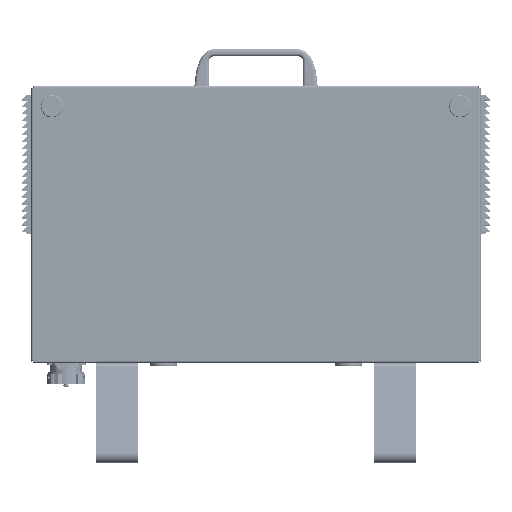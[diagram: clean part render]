
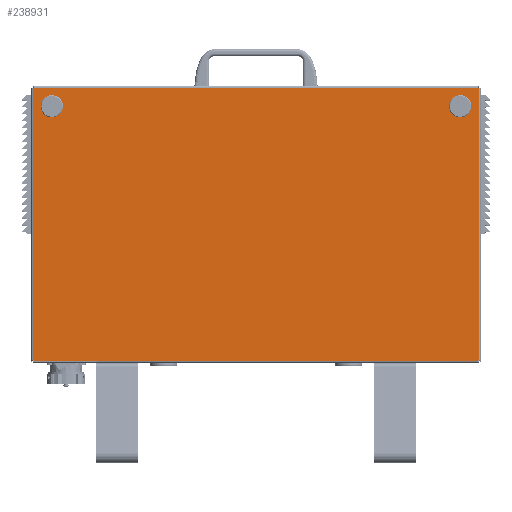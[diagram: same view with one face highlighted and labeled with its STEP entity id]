
A CAD part, top view. The second image highlights one B-rep face of the part: STEP entity #238931.
In plain terms, the highlighted planar face has unit normal (0, 0, 1) as drawn and (0, -1, 0) by its records, which use the part's own axes.
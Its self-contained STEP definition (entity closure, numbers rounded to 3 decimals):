
#2029 = CARTESIAN_POINT ( 'NONE',  ( 239.837, -1.2, 147.5 ) ) ;
#4559 = CARTESIAN_POINT ( 'NONE',  ( -220.5, -1.2, -127.5 ) ) ;
#25336 = CIRCLE ( 'NONE', #657215, 4. ) ;
#43606 = CIRCLE ( 'NONE', #1359634, 4. ) ;
#55134 = CARTESIAN_POINT ( 'NONE',  ( -240.793, -1.2, 147.793 ) ) ;
#63280 = ORIENTED_EDGE ( 'NONE', *, *, #1192630, .F. ) ;
#127245 = VERTEX_POINT ( 'NONE', #158591 ) ;
#158591 = CARTESIAN_POINT ( 'NONE',  ( 220.5, -1.2, -131.5 ) ) ;
#160550 = AXIS2_PLACEMENT_3D ( 'NONE', #539229, #1267619, #1528877 ) ;
#170992 = EDGE_CURVE ( 'NONE', #430628, #351125, #1519705, .T. ) ;
#174819 = CARTESIAN_POINT ( 'NONE',  ( 220.5, -1.2, -127.5 ) ) ;
#176260 = EDGE_CURVE ( 'NONE', #1450821, #417910, #884473, .T. ) ;
#203164 = CARTESIAN_POINT ( 'NONE',  ( -239.837, -1.2, -147.5 ) ) ;
#214237 = AXIS2_PLACEMENT_3D ( 'NONE', #1350197, #1009299, #1492513 ) ;
#214901 = DIRECTION ( 'NONE',  ( 0., 0., 1. ) ) ;
#238931 = ADVANCED_FACE ( 'NONE', ( #1128204, #867194, #526253 ), #436525, .F. ) ;
#292542 = DIRECTION ( 'NONE',  ( -1., 0., 0. ) ) ;
#292641 = DIRECTION ( 'NONE',  ( 0., -1., 0. ) ) ;
#316008 = ORIENTED_EDGE ( 'NONE', *, *, #482730, .F. ) ;
#351125 = VERTEX_POINT ( 'NONE', #929788 ) ;
#377591 = DIRECTION ( 'NONE',  ( 0., -1., 0. ) ) ;
#381940 = VERTEX_POINT ( 'NONE', #1487254 ) ;
#385657 = EDGE_LOOP ( 'NONE', ( #488644, #1562741 ) ) ;
#413430 = CIRCLE ( 'NONE', #615790, 4. ) ;
#417910 = VERTEX_POINT ( 'NONE', #998683 ) ;
#430628 = VERTEX_POINT ( 'NONE', #598486 ) ;
#436525 = PLANE ( 'NONE',  #214237 ) ;
#456701 = CARTESIAN_POINT ( 'NONE',  ( -240.5, -1.2, 147.5 ) ) ;
#469134 = ORIENTED_EDGE ( 'NONE', *, *, #176260, .F. ) ;
#478007 = VECTOR ( 'NONE', #292542, 1000. ) ;
#482730 = EDGE_CURVE ( 'NONE', #999177, #1457818, #1250531, .T. ) ;
#485379 = LINE ( 'NONE', #960624, #910272 ) ;
#487690 = DIRECTION ( 'NONE',  ( 0., 0., -1. ) ) ;
#488644 = ORIENTED_EDGE ( 'NONE', *, *, #1503676, .F. ) ;
#493126 = DIRECTION ( 'NONE',  ( 0., 0., -1. ) ) ;
#514418 = CARTESIAN_POINT ( 'NONE',  ( 220.5, -1.2, -127.5 ) ) ;
#515463 = CARTESIAN_POINT ( 'NONE',  ( 240.793, -1.2, -147.793 ) ) ;
#521091 = EDGE_CURVE ( 'NONE', #767737, #999177, #616073, .T. ) ;
#522198 = DIRECTION ( 'NONE',  ( 0., -1., 0. ) ) ;
#522690 = DIRECTION ( 'NONE',  ( 0., 0., -1. ) ) ;
#526253 = FACE_OUTER_BOUND ( 'NONE', #676528, .T. ) ;
#539229 = CARTESIAN_POINT ( 'NONE',  ( -240.793, -1.2, -147.793 ) ) ;
#567729 = AXIS2_PLACEMENT_3D ( 'NONE', #55134, #292641, #522690 ) ;
#573686 = EDGE_CURVE ( 'NONE', #381940, #710987, #43606, .T. ) ;
#596283 = AXIS2_PLACEMENT_3D ( 'NONE', #514418, #648636, #1020860 ) ;
#598486 = CARTESIAN_POINT ( 'NONE',  ( 240.5, -1.2, -146.837 ) ) ;
#615790 = AXIS2_PLACEMENT_3D ( 'NONE', #174819, #1355347, #634574 ) ;
#616073 = LINE ( 'NONE', #1471387, #1378283 ) ;
#634574 = DIRECTION ( 'NONE',  ( 0., 0., -1. ) ) ;
#648636 = DIRECTION ( 'NONE',  ( 0., -1., 0. ) ) ;
#657215 = AXIS2_PLACEMENT_3D ( 'NONE', #4559, #1327272, #487690 ) ;
#676528 = EDGE_LOOP ( 'NONE', ( #63280, #469134, #1505236, #316008, #1288434, #1427454, #1426520, #900676 ) ) ;
#710987 = VERTEX_POINT ( 'NONE', #863618 ) ;
#739890 = EDGE_CURVE ( 'NONE', #1242658, #127245, #413430, .T. ) ;
#759752 = DIRECTION ( 'NONE',  ( 0., 0., -1. ) ) ;
#767737 = VERTEX_POINT ( 'NONE', #1500045 ) ;
#798645 = CIRCLE ( 'NONE', #596283, 4. ) ;
#805349 = LINE ( 'NONE', #456701, #1291532 ) ;
#815090 = EDGE_CURVE ( 'NONE', #934633, #767737, #1324033, .T. ) ;
#836715 = AXIS2_PLACEMENT_3D ( 'NONE', #515463, #1101915, #1220635 ) ;
#852856 = EDGE_CURVE ( 'NONE', #710987, #381940, #25336, .T. ) ;
#863618 = CARTESIAN_POINT ( 'NONE',  ( -220.5, -1.2, -131.5 ) ) ;
#867194 = FACE_BOUND ( 'NONE', #1339884, .T. ) ;
#870926 = CARTESIAN_POINT ( 'NONE',  ( 240.793, -1.2, 147.793 ) ) ;
#884473 = CIRCLE ( 'NONE', #986139, 1. ) ;
#900676 = ORIENTED_EDGE ( 'NONE', *, *, #170992, .F. ) ;
#910272 = VECTOR ( 'NONE', #493126, 1000. ) ;
#929788 = CARTESIAN_POINT ( 'NONE',  ( 239.837, -1.2, -147.5 ) ) ;
#934633 = VERTEX_POINT ( 'NONE', #203164 ) ;
#960624 = CARTESIAN_POINT ( 'NONE',  ( 240.5, -1.2, -147.5 ) ) ;
#986139 = AXIS2_PLACEMENT_3D ( 'NONE', #870926, #522198, #759752 ) ;
#998683 = CARTESIAN_POINT ( 'NONE',  ( 240.5, -1.2, 146.837 ) ) ;
#999177 = VERTEX_POINT ( 'NONE', #1409574 ) ;
#1009299 = DIRECTION ( 'NONE',  ( 0., 1., 0. ) ) ;
#1020860 = DIRECTION ( 'NONE',  ( 0., 0., -1. ) ) ;
#1101915 = DIRECTION ( 'NONE',  ( 0., -1., 0. ) ) ;
#1128204 = FACE_BOUND ( 'NONE', #385657, .T. ) ;
#1132428 = CARTESIAN_POINT ( 'NONE',  ( -240.5, -1.2, -147.5 ) ) ;
#1192630 = EDGE_CURVE ( 'NONE', #417910, #430628, #485379, .T. ) ;
#1212459 = CARTESIAN_POINT ( 'NONE',  ( -239.837, -1.2, 147.5 ) ) ;
#1220635 = DIRECTION ( 'NONE',  ( 0., 0., -1. ) ) ;
#1242658 = VERTEX_POINT ( 'NONE', #1523346 ) ;
#1250531 = CIRCLE ( 'NONE', #567729, 1. ) ;
#1267619 = DIRECTION ( 'NONE',  ( 0., -1., 0. ) ) ;
#1287441 = EDGE_CURVE ( 'NONE', #351125, #934633, #1401036, .T. ) ;
#1288434 = ORIENTED_EDGE ( 'NONE', *, *, #521091, .F. ) ;
#1291532 = VECTOR ( 'NONE', #1304105, 1000. ) ;
#1304105 = DIRECTION ( 'NONE',  ( 1., 0., 0. ) ) ;
#1324033 = CIRCLE ( 'NONE', #160550, 1. ) ;
#1327272 = DIRECTION ( 'NONE',  ( 0., -1., 0. ) ) ;
#1339884 = EDGE_LOOP ( 'NONE', ( #1417086, #1412939 ) ) ;
#1350197 = CARTESIAN_POINT ( 'NONE',  ( 0., -1.2, 0. ) ) ;
#1355347 = DIRECTION ( 'NONE',  ( 0., -1., 0. ) ) ;
#1359454 = DIRECTION ( 'NONE',  ( 0., 0., -1. ) ) ;
#1359634 = AXIS2_PLACEMENT_3D ( 'NONE', #1470520, #377591, #1359454 ) ;
#1377037 = EDGE_CURVE ( 'NONE', #1457818, #1450821, #805349, .T. ) ;
#1378283 = VECTOR ( 'NONE', #214901, 1000. ) ;
#1401036 = LINE ( 'NONE', #1132428, #478007 ) ;
#1409574 = CARTESIAN_POINT ( 'NONE',  ( -240.5, -1.2, 146.837 ) ) ;
#1412939 = ORIENTED_EDGE ( 'NONE', *, *, #573686, .F. ) ;
#1417086 = ORIENTED_EDGE ( 'NONE', *, *, #852856, .F. ) ;
#1426520 = ORIENTED_EDGE ( 'NONE', *, *, #1287441, .F. ) ;
#1427454 = ORIENTED_EDGE ( 'NONE', *, *, #815090, .F. ) ;
#1450821 = VERTEX_POINT ( 'NONE', #2029 ) ;
#1457818 = VERTEX_POINT ( 'NONE', #1212459 ) ;
#1470520 = CARTESIAN_POINT ( 'NONE',  ( -220.5, -1.2, -127.5 ) ) ;
#1471387 = CARTESIAN_POINT ( 'NONE',  ( -240.5, -1.2, -147.5 ) ) ;
#1487254 = CARTESIAN_POINT ( 'NONE',  ( -220.5, -1.2, -123.5 ) ) ;
#1492513 = DIRECTION ( 'NONE',  ( 0., 0., 1. ) ) ;
#1500045 = CARTESIAN_POINT ( 'NONE',  ( -240.5, -1.2, -146.837 ) ) ;
#1503676 = EDGE_CURVE ( 'NONE', #127245, #1242658, #798645, .T. ) ;
#1505236 = ORIENTED_EDGE ( 'NONE', *, *, #1377037, .F. ) ;
#1519705 = CIRCLE ( 'NONE', #836715, 1. ) ;
#1523346 = CARTESIAN_POINT ( 'NONE',  ( 220.5, -1.2, -123.5 ) ) ;
#1528877 = DIRECTION ( 'NONE',  ( 0., 0., -1. ) ) ;
#1562741 = ORIENTED_EDGE ( 'NONE', *, *, #739890, .F. ) ;
